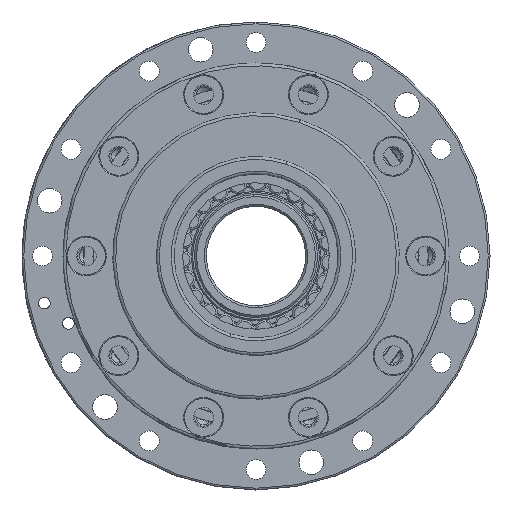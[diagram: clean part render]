
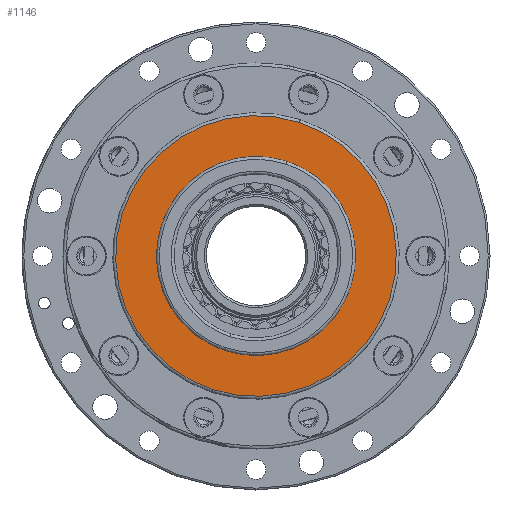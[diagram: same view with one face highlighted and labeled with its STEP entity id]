
A CAD part, left-side view. The second image highlights one B-rep face of the part: STEP entity #1146.
In plain terms, the highlighted planar face has unit normal (-1, 0, 0).
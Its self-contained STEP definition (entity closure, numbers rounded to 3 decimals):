
#1146 = ADVANCED_FACE ( 'NONE', ( #11713, #25277 ), #38181, .F. ) ;
#1796 = VERTEX_POINT ( 'NONE', #3971 ) ;
#1952 = DIRECTION ( 'NONE',  ( 0., -0.309, 0.951 ) ) ;
#2046 = ORIENTED_EDGE ( 'NONE', *, *, #3231, .T. ) ;
#2556 = CARTESIAN_POINT ( 'NONE',  ( -11.5, 0., 0. ) ) ;
#2988 = AXIS2_PLACEMENT_3D ( 'NONE', #22201, #18825, #31756 ) ;
#3231 = EDGE_CURVE ( 'NONE', #8838, #16011, #24200, .T. ) ;
#3971 = CARTESIAN_POINT ( 'NONE',  ( -11.5, -7.416, 22.825 ) ) ;
#4050 = EDGE_LOOP ( 'NONE', ( #5744, #2046 ) ) ;
#5357 = CARTESIAN_POINT ( 'NONE',  ( -11.5, 0., 0. ) ) ;
#5440 = VERTEX_POINT ( 'NONE', #16697 ) ;
#5744 = ORIENTED_EDGE ( 'NONE', *, *, #8387, .T. ) ;
#5847 = EDGE_LOOP ( 'NONE', ( #17110, #40282 ) ) ;
#7128 = AXIS2_PLACEMENT_3D ( 'NONE', #8709, #31412, #1952 ) ;
#8387 = EDGE_CURVE ( 'NONE', #16011, #8838, #39052, .T. ) ;
#8709 = CARTESIAN_POINT ( 'NONE',  ( -11.5, -16.197, -5.263 ) ) ;
#8838 = VERTEX_POINT ( 'NONE', #34930 ) ;
#11713 = FACE_OUTER_BOUND ( 'NONE', #5847, .T. ) ;
#12459 = DIRECTION ( 'NONE',  ( -1., 0., 0. ) ) ;
#14490 = CIRCLE ( 'NONE', #2988, 24. ) ;
#16011 = VERTEX_POINT ( 'NONE', #33349 ) ;
#16697 = CARTESIAN_POINT ( 'NONE',  ( -11.5, 7.416, -22.825 ) ) ;
#17110 = ORIENTED_EDGE ( 'NONE', *, *, #17580, .T. ) ;
#17580 = EDGE_CURVE ( 'NONE', #1796, #5440, #14490, .T. ) ;
#18518 = EDGE_CURVE ( 'NONE', #5440, #1796, #40985, .T. ) ;
#18721 = DIRECTION ( 'NONE',  ( 0., -0.309, 0.951 ) ) ;
#18825 = DIRECTION ( 'NONE',  ( -1., 0., 0. ) ) ;
#22005 = AXIS2_PLACEMENT_3D ( 'NONE', #28976, #12459, #41911 ) ;
#22201 = CARTESIAN_POINT ( 'NONE',  ( -11.5, 0., 0. ) ) ;
#22446 = DIRECTION ( 'NONE',  ( 0., -0.309, 0.951 ) ) ;
#24200 = CIRCLE ( 'NONE', #30945, 17.031 ) ;
#25098 = DIRECTION ( 'NONE',  ( 1., 0., 0. ) ) ;
#25277 = FACE_BOUND ( 'NONE', #4050, .T. ) ;
#28976 = CARTESIAN_POINT ( 'NONE',  ( -11.5, 0., 0. ) ) ;
#30945 = AXIS2_PLACEMENT_3D ( 'NONE', #5357, #25098, #18721 ) ;
#31412 = DIRECTION ( 'NONE',  ( 1., 0., 0. ) ) ;
#31756 = DIRECTION ( 'NONE',  ( 0., -0.309, 0.951 ) ) ;
#33349 = CARTESIAN_POINT ( 'NONE',  ( -11.5, -5.263, 16.197 ) ) ;
#34773 = DIRECTION ( 'NONE',  ( 1., 0., 0. ) ) ;
#34930 = CARTESIAN_POINT ( 'NONE',  ( -11.5, 5.263, -16.197 ) ) ;
#38181 = PLANE ( 'NONE',  #7128 ) ;
#39052 = CIRCLE ( 'NONE', #41098, 17.031 ) ;
#40282 = ORIENTED_EDGE ( 'NONE', *, *, #18518, .T. ) ;
#40985 = CIRCLE ( 'NONE', #22005, 24. ) ;
#41098 = AXIS2_PLACEMENT_3D ( 'NONE', #2556, #34773, #22446 ) ;
#41911 = DIRECTION ( 'NONE',  ( 0., -0.309, 0.951 ) ) ;
